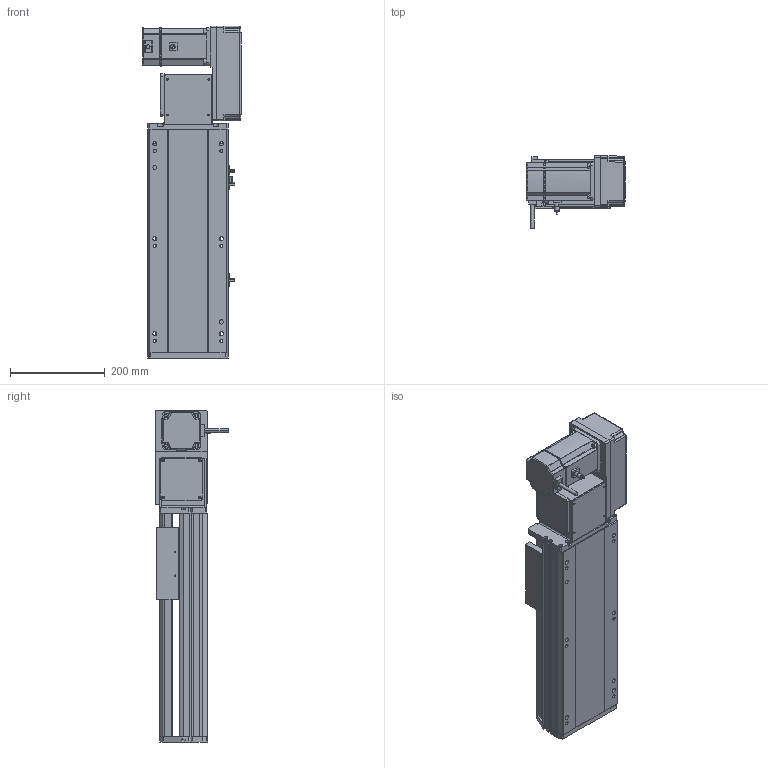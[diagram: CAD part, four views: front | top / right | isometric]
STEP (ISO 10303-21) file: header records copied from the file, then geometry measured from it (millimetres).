
FILE_DESCRIPTION (( 'STEP AP214' ), '1' );
FILE_NAME ('RTB17S-XX-200-R-M75-C4.STEP', '2025-12-12T01:29:04', ( '' ), ( '' ), 'SwSTEP 2.0', 'SolidWorks 2018', '' );
FILE_SCHEMA (( 'AUTOMOTIVE_DESIGN' ));
Length unit declared in the file: millimetre
Products named in the file (15): RTB22S-GY-017P^RTB17S-R-々湍釱蚾饜-750W_RTB17S-XX-XX-R-M75-C4; RTB22S-GY-005P^RTB17S-R-々湍釱蚾饜-750W_RTB17S-XX-XX-R-M75-C4; RTB17S-R-々湍釱蚾饜-750W^RTB17S-XX-XX-R-M75-C4; RTB22S-GY-008-M75--萇儂啣^RTB17S-R-々湍釱蚾饜-750W_RTB17S-XX-XX-R-M75-C4; 750W萇儂^RTB17S-XX-XX-R-M75-C4; RTB17S-L-014-T20-P75--々湍釱^RTB17S-R-々湍釱蚾饜-750W_RTB17S-XX-XX-R-M75-C4; RTB17S-賑釱^RTB17S-XX-XX-R-M75-C4; RTH13-BL-012覜茼え俋离^RTB17S-賑釱_RTB17S-XX-XX-R-M75-C4; RTB17-R-011菁釱^RTB17S-XX-XX-R-M75-C4; RTB17S-L-001-耜醱啣^RTB17S-XX-XX-R-M75-C4; RTB17S-XX-200-R-M75-C4; RTB17S-L-004-賑釱^RTB17S-賑釱_RTB17S-XX-XX-R-M75-C4; RTB17S-L-007奻裔^RTB17S-XX-XX-R-M75-C4; EE672^RTB17S-XX-XX-R-M75-C4; RTB22S-GY-018P^RTB17S-R-々湍釱蚾饜-750W_RTB17S-XX-XX-R-M75-C4
Assembly tree (17 placements, depth 3):
  RTB17S-XX-200-R-M75-C4
    RTB17-R-011菁釱^RTB17S-XX-XX-R-M75-C4
    EE672^RTB17S-XX-XX-R-M75-C4  x3
    RTB17S-L-001-耜醱啣^RTB17S-XX-XX-R-M75-C4
    RTB17S-賑釱^RTB17S-XX-XX-R-M75-C4
      RTB17S-L-004-賑釱^RTB17S-賑釱_RTB17S-XX-XX-R-M75-C4
      RTH13-BL-012覜茼え俋离^RTB17S-賑釱_RTB17S-XX-XX-R-M75-C4
    RTB17S-L-007奻裔^RTB17S-XX-XX-R-M75-C4
    750W萇儂^RTB17S-XX-XX-R-M75-C4
    RTB17S-R-々湍釱蚾饜-750W^RTB17S-XX-XX-R-M75-C4
      RTB17S-L-014-T20-P75--々湍釱^RTB17S-R-々湍釱蚾饜-750W_RTB17S-XX-XX-R-M75-C4
      RTB22S-GY-005P^RTB17S-R-々湍釱蚾饜-750W_RTB17S-XX-XX-R-M75-C4
      RTB22S-GY-017P^RTB17S-R-々湍釱蚾饜-750W_RTB17S-XX-XX-R-M75-C4  x2
      RTB22S-GY-008-M75--萇儂啣^RTB17S-R-々湍釱蚾饜-750W_RTB17S-XX-XX-R-M75-C4
      RTB22S-GY-018P^RTB17S-R-々湍釱蚾饜-750W_RTB17S-XX-XX-R-M75-C4
Bounding box: 207.4 x 152.7 x 699 mm (x, y, z)
Volume: 7202833.1 mm3; surface area: 1087356.4 mm2
Topology: 17 solids, 17 shells, 2025 faces, 5566 edges, 3590 vertices
Faces by surface type: plane 962, cylinder 647, bspline 294, cone 110, sphere 8, torus 4
Entity records: 55030 total; most frequent: CARTESIAN_POINT 16030, ORIENTED_EDGE 7976, DIRECTION 7502, EDGE_CURVE 3988, AXIS2_PLACEMENT_3D 2610, VERTEX_POINT 2594, LINE 2282, VECTOR 2282
